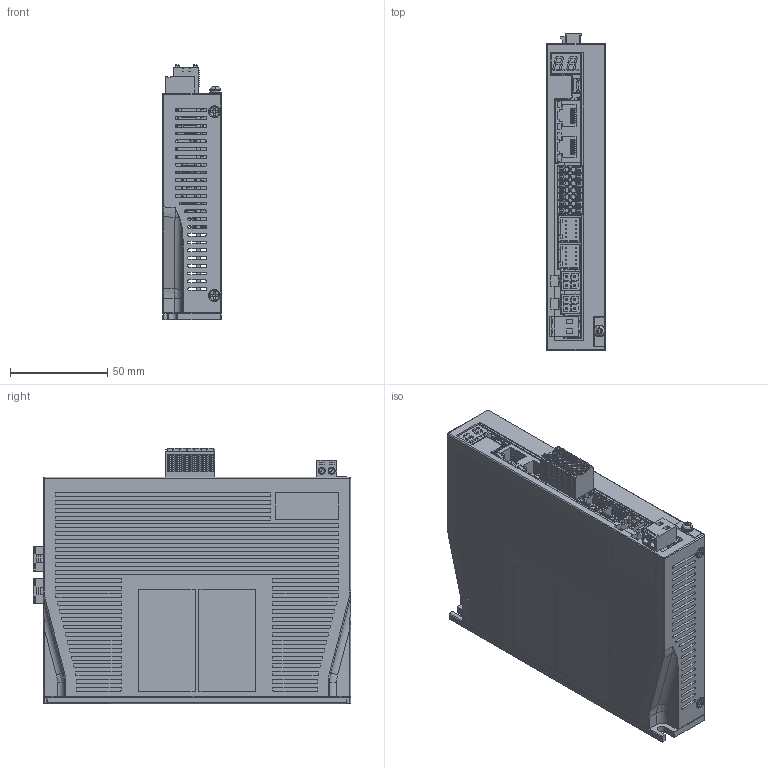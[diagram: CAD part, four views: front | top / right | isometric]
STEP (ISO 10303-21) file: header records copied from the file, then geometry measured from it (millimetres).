
FILE_DESCRIPTION((''),'2;1');
FILE_NAME('PRT0001','2023-07-18T10:55:55',('Admin'),(''),'CREO PARAMETRIC BY PTC INC, 2020074','CREO PARAMETRIC BY PTC INC, 2020074','');
FILE_SCHEMA(('CONFIG_CONTROL_DESIGN','SHAPE_APPEARANCE_LAYERS_GROUPS'));
Products named in the file (1): PRT0001
Bounding box: 30 x 163.15 x 131.5 mm (x, y, z)
Volume: 197346.9 mm3; surface area: 184813 mm2
Topology: 1 solids, 25 shells, 6230 faces, 16315 edges, 10439 vertices
Faces by surface type: plane 4537, cylinder 1184, bspline 209, cone 152, torus 60, sphere 58, extrusion 30
Entity records: 241832 total; most frequent: CARTESIAN_POINT 45647, ORIENTED_EDGE 32550, DIRECTION 29623, EDGE_CURVE 16275, VECTOR 13129, LINE 13099, VERTEX_POINT 10439, AXIS2_PLACEMENT_3D 8247
